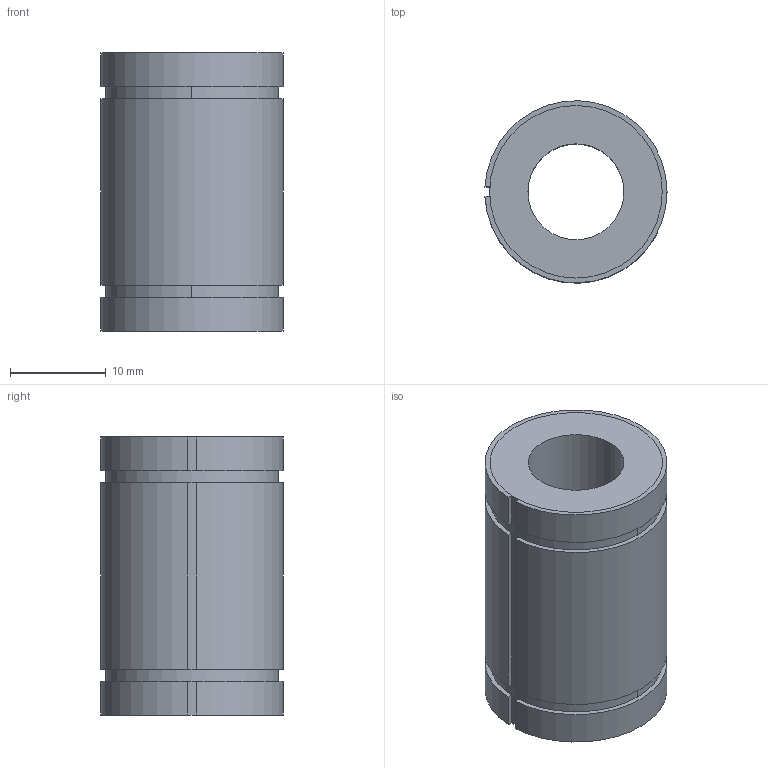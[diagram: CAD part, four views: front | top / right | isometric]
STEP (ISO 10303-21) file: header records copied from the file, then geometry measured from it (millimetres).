
FILE_DESCRIPTION((''),'2;1');
FILE_NAME('C:\Documents and Settings\ｿﾀﾀ蠑ｷ1\ｹﾙﾅﾁ ﾈｭｸ饅\ｺﾎﾇｰﾆﾄﾀﾏ\ﾁｦﾇｰ\LM__UUAJ\LM10UUAJ.stp','2005-06-14T16:23:22',('ｿﾀﾀ蠑ｷ1'),(''),'Autodesk Inventor 9','Autodesk Inventor 9','');
FILE_SCHEMA(('AUTOMOTIVE_DESIGN { 1 0 10303 214 1 1 1 1 }'));
Length unit declared in the file: millimetre
Products named in the file (1): LM__AJ
Bounding box: 18.99 x 18.99 x 29 mm (x, y, z)
Volume: 5856 mm3; surface area: 3182.8 mm2
Topology: 1 solids, 1 shells, 29 faces, 76 edges, 49 vertices
Faces by surface type: plane 17, cylinder 12
Entity records: 928 total; most frequent: DIRECTION 167, CARTESIAN_POINT 155, ORIENTED_EDGE 152, EDGE_CURVE 76, AXIS2_PLACEMENT_3D 61, VERTEX_POINT 49, VECTOR 45, LINE 45
